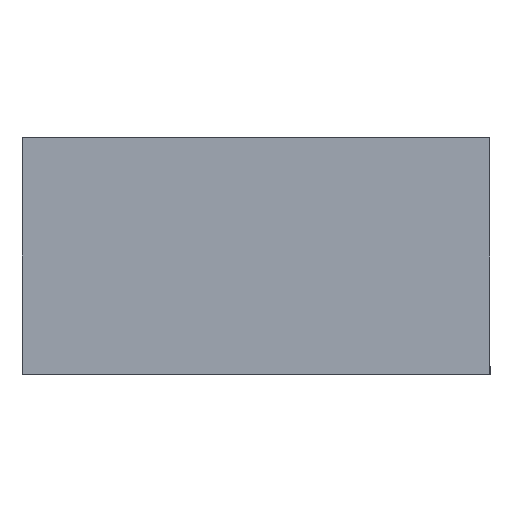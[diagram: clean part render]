
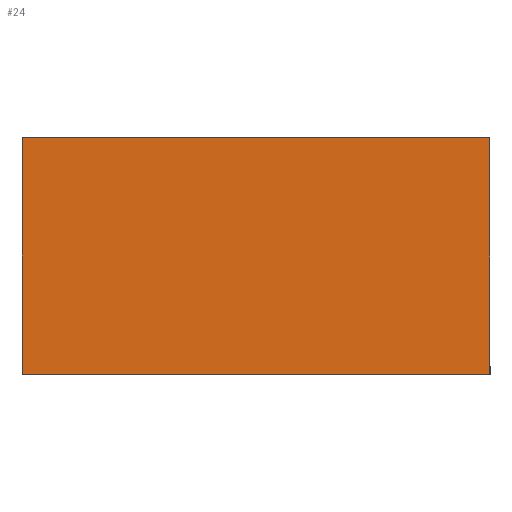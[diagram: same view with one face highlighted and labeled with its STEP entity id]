
A CAD part, left-side view. The second image highlights one B-rep face of the part: STEP entity #24.
In plain terms, the highlighted planar face has unit normal (-1, 0, 0).
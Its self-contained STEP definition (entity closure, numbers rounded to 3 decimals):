
#24 = ADVANCED_FACE ( 'NONE', ( #358 ), #629, .T. ) ;
#57 = AXIS2_PLACEMENT_3D ( 'NONE', #880, #720, #707 ) ;
#160 = LINE ( 'NONE', #781, #173 ) ;
#173 = VECTOR ( 'NONE', #805, 1000. ) ;
#248 = LINE ( 'NONE', #724, #354 ) ;
#249 = VECTOR ( 'NONE', #696, 1000. ) ;
#271 = VECTOR ( 'NONE', #755, 1000. ) ;
#315 = LINE ( 'NONE', #761, #271 ) ;
#317 = LINE ( 'NONE', #700, #249 ) ;
#354 = VECTOR ( 'NONE', #671, 1000. ) ;
#358 = FACE_OUTER_BOUND ( 'NONE', #438, .T. ) ;
#438 = EDGE_LOOP ( 'NONE', ( #1019, #1021, #1078, #988 ) ) ;
#538 = CARTESIAN_POINT ( 'NONE',  ( -33.5, -10.2, -20.7 ) ) ;
#595 = CARTESIAN_POINT ( 'NONE',  ( -33.5, 42.3, 5.8 ) ) ;
#608 = CARTESIAN_POINT ( 'NONE',  ( -33.5, 42.3, -20.7 ) ) ;
#629 = PLANE ( 'NONE',  #57 ) ;
#671 = DIRECTION ( 'NONE',  ( 0., 0., -1. ) ) ;
#696 = DIRECTION ( 'NONE',  ( 0., -1., 0. ) ) ;
#700 = CARTESIAN_POINT ( 'NONE',  ( -33.5, 42.3, 5.8 ) ) ;
#707 = DIRECTION ( 'NONE',  ( 0., -1., 0. ) ) ;
#713 = CARTESIAN_POINT ( 'NONE',  ( -33.5, -10.2, 5.8 ) ) ;
#720 = DIRECTION ( 'NONE',  ( -1., 0., 0. ) ) ;
#724 = CARTESIAN_POINT ( 'NONE',  ( -33.5, 42.3, 5.8 ) ) ;
#755 = DIRECTION ( 'NONE',  ( 0., 0., -1. ) ) ;
#761 = CARTESIAN_POINT ( 'NONE',  ( -33.5, -10.2, 5.8 ) ) ;
#781 = CARTESIAN_POINT ( 'NONE',  ( -33.5, 42.3, -20.7 ) ) ;
#805 = DIRECTION ( 'NONE',  ( 0., -1., 0. ) ) ;
#880 = CARTESIAN_POINT ( 'NONE',  ( -33.5, 42.3, 5.8 ) ) ;
#988 = ORIENTED_EDGE ( 'NONE', *, *, #1268, .T. ) ;
#1019 = ORIENTED_EDGE ( 'NONE', *, *, #1204, .F. ) ;
#1021 = ORIENTED_EDGE ( 'NONE', *, *, #1198, .F. ) ;
#1078 = ORIENTED_EDGE ( 'NONE', *, *, #1201, .T. ) ;
#1198 = EDGE_CURVE ( 'NONE', #1333, #1340, #317, .T. ) ;
#1201 = EDGE_CURVE ( 'NONE', #1333, #1354, #248, .T. ) ;
#1204 = EDGE_CURVE ( 'NONE', #1340, #1403, #315, .T. ) ;
#1268 = EDGE_CURVE ( 'NONE', #1354, #1403, #160, .T. ) ;
#1333 = VERTEX_POINT ( 'NONE', #595 ) ;
#1340 = VERTEX_POINT ( 'NONE', #713 ) ;
#1354 = VERTEX_POINT ( 'NONE', #608 ) ;
#1403 = VERTEX_POINT ( 'NONE', #538 ) ;
